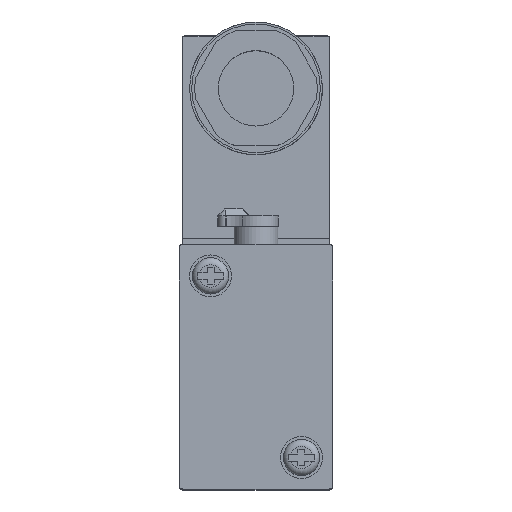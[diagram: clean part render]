
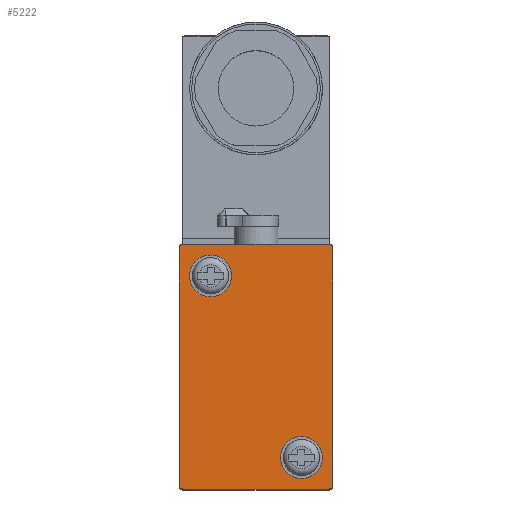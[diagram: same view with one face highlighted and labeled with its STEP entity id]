
A CAD part, top view. The second image highlights one B-rep face of the part: STEP entity #5222.
In plain terms, the highlighted planar face has unit normal (0, 0, 1).
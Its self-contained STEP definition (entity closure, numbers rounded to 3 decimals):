
#58=PLANE('',#5648);
#326=FACE_BOUND('',#755,.T.);
#327=FACE_BOUND('',#756,.T.);
#415=FACE_OUTER_BOUND('',#754,.T.);
#754=EDGE_LOOP('',(#3714,#3715,#3716,#3717,#3718,#3719,#3720,#3721));
#755=EDGE_LOOP('',(#3722));
#756=EDGE_LOOP('',(#3723));
#1153=LINE('',#8240,#1628);
#1156=LINE('',#8246,#1631);
#1159=LINE('',#8252,#1634);
#1164=LINE('',#8262,#1639);
#1628=VECTOR('',#6493,34.);
#1631=VECTOR('',#6498,21.);
#1634=VECTOR('',#6503,34.);
#1639=VECTOR('',#6510,21.);
#2010=CIRCLE('',#5513,3.);
#2012=CIRCLE('',#5516,3.);
#2074=CIRCLE('',#5649,0.5);
#2075=CIRCLE('',#5650,0.5);
#2076=CIRCLE('',#5651,0.5);
#2077=CIRCLE('',#5652,0.5);
#2237=VERTEX_POINT('',#7805);
#2239=VERTEX_POINT('',#7810);
#2415=VERTEX_POINT('',#8238);
#2416=VERTEX_POINT('',#8239);
#2417=VERTEX_POINT('',#8244);
#2418=VERTEX_POINT('',#8245);
#2419=VERTEX_POINT('',#8250);
#2420=VERTEX_POINT('',#8251);
#2423=VERTEX_POINT('',#8259);
#2424=VERTEX_POINT('',#8261);
#2720=EDGE_CURVE('',#2237,#2237,#2010,.T.);
#2722=EDGE_CURVE('',#2239,#2239,#2012,.T.);
#2923=EDGE_CURVE('',#2415,#2416,#1153,.T.);
#2926=EDGE_CURVE('',#2417,#2418,#1156,.T.);
#2929=EDGE_CURVE('',#2419,#2420,#1159,.T.);
#2934=EDGE_CURVE('',#2424,#2423,#1164,.T.);
#2936=EDGE_CURVE('',#2423,#2415,#2074,.T.);
#2937=EDGE_CURVE('',#2416,#2417,#2075,.T.);
#2938=EDGE_CURVE('',#2418,#2419,#2076,.T.);
#2939=EDGE_CURVE('',#2420,#2424,#2077,.T.);
#3714=ORIENTED_EDGE('',*,*,#2934,.T.);
#3715=ORIENTED_EDGE('',*,*,#2936,.T.);
#3716=ORIENTED_EDGE('',*,*,#2923,.T.);
#3717=ORIENTED_EDGE('',*,*,#2937,.T.);
#3718=ORIENTED_EDGE('',*,*,#2926,.T.);
#3719=ORIENTED_EDGE('',*,*,#2938,.T.);
#3720=ORIENTED_EDGE('',*,*,#2929,.T.);
#3721=ORIENTED_EDGE('',*,*,#2939,.T.);
#3722=ORIENTED_EDGE('',*,*,#2720,.F.);
#3723=ORIENTED_EDGE('',*,*,#2722,.F.);
#5222=ADVANCED_FACE('',(#415,#326,#327),#58,.F.);
#5513=AXIS2_PLACEMENT_3D('',#7806,#6106,#6107);
#5516=AXIS2_PLACEMENT_3D('',#7811,#6112,#6113);
#5648=AXIS2_PLACEMENT_3D('',#8264,#6512,#6513);
#5649=AXIS2_PLACEMENT_3D('',#8265,#6514,#6515);
#5650=AXIS2_PLACEMENT_3D('',#8266,#6516,#6517);
#5651=AXIS2_PLACEMENT_3D('',#8267,#6518,#6519);
#5652=AXIS2_PLACEMENT_3D('',#8268,#6520,#6521);
#6106=DIRECTION('center_axis',(0.,0.,1.));
#6107=DIRECTION('ref_axis',(1.,0.,0.));
#6112=DIRECTION('center_axis',(0.,0.,1.));
#6113=DIRECTION('ref_axis',(1.,0.,0.));
#6493=DIRECTION('',(0.,-1.,0.));
#6498=DIRECTION('',(1.,0.,0.));
#6503=DIRECTION('',(0.,1.,0.));
#6510=DIRECTION('',(-1.,0.,0.));
#6512=DIRECTION('center_axis',(0.,0.,-1.));
#6513=DIRECTION('ref_axis',(-1.,0.,0.));
#6514=DIRECTION('center_axis',(0.,0.,1.));
#6515=DIRECTION('ref_axis',(-1.,0.,0.));
#6516=DIRECTION('center_axis',(0.,0.,1.));
#6517=DIRECTION('ref_axis',(-1.,0.,0.));
#6518=DIRECTION('center_axis',(0.,0.,1.));
#6519=DIRECTION('ref_axis',(-1.,0.,0.));
#6520=DIRECTION('center_axis',(0.,0.,1.));
#6521=DIRECTION('ref_axis',(-1.,0.,0.));
#7805=CARTESIAN_POINT('',(-3.5,13.,7.));
#7806=CARTESIAN_POINT('Origin',(-6.5,13.,7.));
#7810=CARTESIAN_POINT('',(9.5,-13.,7.));
#7811=CARTESIAN_POINT('Origin',(6.5,-13.,7.));
#8238=CARTESIAN_POINT('',(-11.,17.,7.));
#8239=CARTESIAN_POINT('',(-11.,-17.,7.));
#8240=CARTESIAN_POINT('',(-11.,-17.5,7.));
#8244=CARTESIAN_POINT('',(-10.5,-17.5,7.));
#8245=CARTESIAN_POINT('',(10.5,-17.5,7.));
#8246=CARTESIAN_POINT('',(11.,-17.5,7.));
#8250=CARTESIAN_POINT('',(11.,-17.,7.));
#8251=CARTESIAN_POINT('',(11.,17.,7.));
#8252=CARTESIAN_POINT('',(11.,17.5,7.));
#8259=CARTESIAN_POINT('',(-10.5,17.5,7.));
#8261=CARTESIAN_POINT('',(10.5,17.5,7.));
#8262=CARTESIAN_POINT('',(-11.,17.5,7.));
#8264=CARTESIAN_POINT('Origin',(0.,0.,7.));
#8265=CARTESIAN_POINT('Origin',(-10.5,17.,7.));
#8266=CARTESIAN_POINT('Origin',(-10.5,-17.,7.));
#8267=CARTESIAN_POINT('Origin',(10.5,-17.,7.));
#8268=CARTESIAN_POINT('Origin',(10.5,17.,7.));
